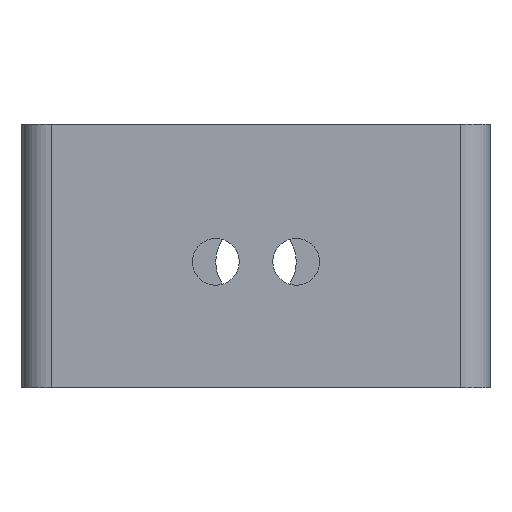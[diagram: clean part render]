
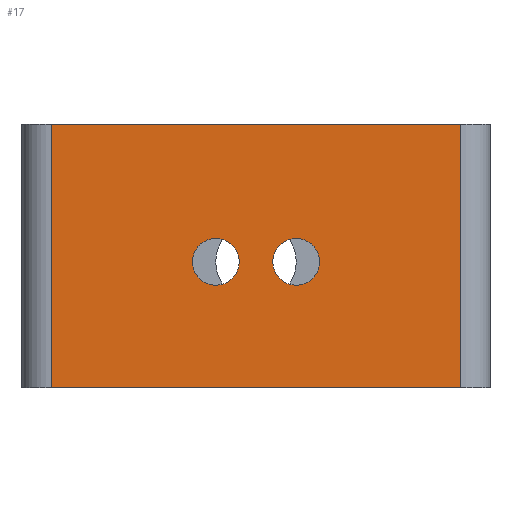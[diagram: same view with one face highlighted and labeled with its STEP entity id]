
A CAD part, left-side view. The second image highlights one B-rep face of the part: STEP entity #17.
In plain terms, the highlighted planar face has unit normal (-1, 0, 0).
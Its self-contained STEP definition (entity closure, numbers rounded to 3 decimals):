
#17 = ADVANCED_FACE('',(#18,#137,#172),#32,.F.);
#18 = FACE_BOUND('',#19,.F.);
#19 = EDGE_LOOP('',(#20,#55,#83,#111));
#20 = ORIENTED_EDGE('',*,*,#21,.F.);
#21 = EDGE_CURVE('',#22,#24,#26,.T.);
#22 = VERTEX_POINT('',#23);
#23 = CARTESIAN_POINT('',(0.,2.,18.));
#24 = VERTEX_POINT('',#25);
#25 = CARTESIAN_POINT('',(0.,30.,18.));
#26 = SURFACE_CURVE('',#27,(#31,#43),.PCURVE_S1.);
#27 = LINE('',#28,#29);
#28 = CARTESIAN_POINT('',(0.,0.,18.));
#29 = VECTOR('',#30,1.);
#30 = DIRECTION('',(0.,1.,0.));
#31 = PCURVE('',#32,#37);
#32 = PLANE('',#33);
#33 = AXIS2_PLACEMENT_3D('',#34,#35,#36);
#34 = CARTESIAN_POINT('',(0.,0.,0.));
#35 = DIRECTION('',(1.,0.,0.));
#36 = DIRECTION('',(0.,0.,1.));
#37 = DEFINITIONAL_REPRESENTATION('',(#38),#42);
#38 = LINE('',#39,#40);
#39 = CARTESIAN_POINT('',(18.,0.));
#40 = VECTOR('',#41,1.);
#41 = DIRECTION('',(0.,-1.));
#42 = ( GEOMETRIC_REPRESENTATION_CONTEXT(2) 
PARAMETRIC_REPRESENTATION_CONTEXT() REPRESENTATION_CONTEXT('2D SPACE',''
  ) );
#43 = PCURVE('',#44,#49);
#44 = PLANE('',#45);
#45 = AXIS2_PLACEMENT_3D('',#46,#47,#48);
#46 = CARTESIAN_POINT('',(0.,0.,18.));
#47 = DIRECTION('',(0.,0.,1.));
#48 = DIRECTION('',(1.,0.,0.));
#49 = DEFINITIONAL_REPRESENTATION('',(#50),#54);
#50 = LINE('',#51,#52);
#51 = CARTESIAN_POINT('',(0.,0.));
#52 = VECTOR('',#53,1.);
#53 = DIRECTION('',(0.,1.));
#54 = ( GEOMETRIC_REPRESENTATION_CONTEXT(2) 
PARAMETRIC_REPRESENTATION_CONTEXT() REPRESENTATION_CONTEXT('2D SPACE',''
  ) );
#55 = ORIENTED_EDGE('',*,*,#56,.F.);
#56 = EDGE_CURVE('',#57,#22,#59,.T.);
#57 = VERTEX_POINT('',#58);
#58 = CARTESIAN_POINT('',(0.,2.,0.));
#59 = SURFACE_CURVE('',#60,(#64,#71),.PCURVE_S1.);
#60 = LINE('',#61,#62);
#61 = CARTESIAN_POINT('',(0.,2.,0.));
#62 = VECTOR('',#63,1.);
#63 = DIRECTION('',(0.,0.,1.));
#64 = PCURVE('',#32,#65);
#65 = DEFINITIONAL_REPRESENTATION('',(#66),#70);
#66 = LINE('',#67,#68);
#67 = CARTESIAN_POINT('',(0.,-2.));
#68 = VECTOR('',#69,1.);
#69 = DIRECTION('',(1.,0.));
#70 = ( GEOMETRIC_REPRESENTATION_CONTEXT(2) 
PARAMETRIC_REPRESENTATION_CONTEXT() REPRESENTATION_CONTEXT('2D SPACE',''
  ) );
#71 = PCURVE('',#72,#77);
#72 = CYLINDRICAL_SURFACE('',#73,2.);
#73 = AXIS2_PLACEMENT_3D('',#74,#75,#76);
#74 = CARTESIAN_POINT('',(2.,2.,0.));
#75 = DIRECTION('',(0.,0.,1.));
#76 = DIRECTION('',(-1.,-0.,0.));
#77 = DEFINITIONAL_REPRESENTATION('',(#78),#82);
#78 = LINE('',#79,#80);
#79 = CARTESIAN_POINT('',(0.,0.));
#80 = VECTOR('',#81,1.);
#81 = DIRECTION('',(0.,1.));
#82 = ( GEOMETRIC_REPRESENTATION_CONTEXT(2) 
PARAMETRIC_REPRESENTATION_CONTEXT() REPRESENTATION_CONTEXT('2D SPACE',''
  ) );
#83 = ORIENTED_EDGE('',*,*,#84,.T.);
#84 = EDGE_CURVE('',#57,#85,#87,.T.);
#85 = VERTEX_POINT('',#86);
#86 = CARTESIAN_POINT('',(0.,30.,0.));
#87 = SURFACE_CURVE('',#88,(#92,#99),.PCURVE_S1.);
#88 = LINE('',#89,#90);
#89 = CARTESIAN_POINT('',(0.,0.,0.));
#90 = VECTOR('',#91,1.);
#91 = DIRECTION('',(0.,1.,0.));
#92 = PCURVE('',#32,#93);
#93 = DEFINITIONAL_REPRESENTATION('',(#94),#98);
#94 = LINE('',#95,#96);
#95 = CARTESIAN_POINT('',(0.,0.));
#96 = VECTOR('',#97,1.);
#97 = DIRECTION('',(0.,-1.));
#98 = ( GEOMETRIC_REPRESENTATION_CONTEXT(2) 
PARAMETRIC_REPRESENTATION_CONTEXT() REPRESENTATION_CONTEXT('2D SPACE',''
  ) );
#99 = PCURVE('',#100,#105);
#100 = PLANE('',#101);
#101 = AXIS2_PLACEMENT_3D('',#102,#103,#104);
#102 = CARTESIAN_POINT('',(0.,0.,0.));
#103 = DIRECTION('',(0.,0.,1.));
#104 = DIRECTION('',(1.,0.,0.));
#105 = DEFINITIONAL_REPRESENTATION('',(#106),#110);
#106 = LINE('',#107,#108);
#107 = CARTESIAN_POINT('',(0.,0.));
#108 = VECTOR('',#109,1.);
#109 = DIRECTION('',(0.,1.));
#110 = ( GEOMETRIC_REPRESENTATION_CONTEXT(2) 
PARAMETRIC_REPRESENTATION_CONTEXT() REPRESENTATION_CONTEXT('2D SPACE',''
  ) );
#111 = ORIENTED_EDGE('',*,*,#112,.T.);
#112 = EDGE_CURVE('',#85,#24,#113,.T.);
#113 = SURFACE_CURVE('',#114,(#118,#125),.PCURVE_S1.);
#114 = LINE('',#115,#116);
#115 = CARTESIAN_POINT('',(0.,30.,0.));
#116 = VECTOR('',#117,1.);
#117 = DIRECTION('',(0.,0.,1.));
#118 = PCURVE('',#32,#119);
#119 = DEFINITIONAL_REPRESENTATION('',(#120),#124);
#120 = LINE('',#121,#122);
#121 = CARTESIAN_POINT('',(0.,-30.));
#122 = VECTOR('',#123,1.);
#123 = DIRECTION('',(1.,0.));
#124 = ( GEOMETRIC_REPRESENTATION_CONTEXT(2) 
PARAMETRIC_REPRESENTATION_CONTEXT() REPRESENTATION_CONTEXT('2D SPACE',''
  ) );
#125 = PCURVE('',#126,#131);
#126 = CYLINDRICAL_SURFACE('',#127,2.);
#127 = AXIS2_PLACEMENT_3D('',#128,#129,#130);
#128 = CARTESIAN_POINT('',(2.,30.,0.));
#129 = DIRECTION('',(0.,0.,1.));
#130 = DIRECTION('',(-1.,-0.,0.));
#131 = DEFINITIONAL_REPRESENTATION('',(#132),#136);
#132 = LINE('',#133,#134);
#133 = CARTESIAN_POINT('',(-0.,0.));
#134 = VECTOR('',#135,1.);
#135 = DIRECTION('',(-0.,1.));
#136 = ( GEOMETRIC_REPRESENTATION_CONTEXT(2) 
PARAMETRIC_REPRESENTATION_CONTEXT() REPRESENTATION_CONTEXT('2D SPACE',''
  ) );
#137 = FACE_BOUND('',#138,.F.);
#138 = EDGE_LOOP('',(#139));
#139 = ORIENTED_EDGE('',*,*,#140,.T.);
#140 = EDGE_CURVE('',#141,#141,#143,.T.);
#141 = VERTEX_POINT('',#142);
#142 = CARTESIAN_POINT('',(0.,20.35,8.6));
#143 = SURFACE_CURVE('',#144,(#149,#160),.PCURVE_S1.);
#144 = CIRCLE('',#145,1.6);
#145 = AXIS2_PLACEMENT_3D('',#146,#147,#148);
#146 = CARTESIAN_POINT('',(0.,18.75,8.6));
#147 = DIRECTION('',(-1.,0.,0.));
#148 = DIRECTION('',(0.,1.,0.));
#149 = PCURVE('',#32,#150);
#150 = DEFINITIONAL_REPRESENTATION('',(#151),#159);
#151 = ( BOUNDED_CURVE() B_SPLINE_CURVE(2,(#152,#153,#154,#155,#156,#157
,#158),.UNSPECIFIED.,.T.,.F.) B_SPLINE_CURVE_WITH_KNOTS((1,2,2,2,2,1),(
    -2.094,0.,2.094,4.189,6.283,
8.378),.UNSPECIFIED.) CURVE() GEOMETRIC_REPRESENTATION_ITEM() 
RATIONAL_B_SPLINE_CURVE((1.,0.5,1.,0.5,1.,0.5,1.)) REPRESENTATION_ITEM(
  '') );
#152 = CARTESIAN_POINT('',(8.6,-20.35));
#153 = CARTESIAN_POINT('',(5.829,-20.35));
#154 = CARTESIAN_POINT('',(7.214,-17.95));
#155 = CARTESIAN_POINT('',(8.6,-15.55));
#156 = CARTESIAN_POINT('',(9.986,-17.95));
#157 = CARTESIAN_POINT('',(11.371,-20.35));
#158 = CARTESIAN_POINT('',(8.6,-20.35));
#159 = ( GEOMETRIC_REPRESENTATION_CONTEXT(2) 
PARAMETRIC_REPRESENTATION_CONTEXT() REPRESENTATION_CONTEXT('2D SPACE',''
  ) );
#160 = PCURVE('',#161,#166);
#161 = CYLINDRICAL_SURFACE('',#162,1.6);
#162 = AXIS2_PLACEMENT_3D('',#163,#164,#165);
#163 = CARTESIAN_POINT('',(-0.5,18.75,8.6));
#164 = DIRECTION('',(-1.,-0.,-0.));
#165 = DIRECTION('',(0.,1.,0.));
#166 = DEFINITIONAL_REPRESENTATION('',(#167),#171);
#167 = LINE('',#168,#169);
#168 = CARTESIAN_POINT('',(-6.283,-0.5));
#169 = VECTOR('',#170,1.);
#170 = DIRECTION('',(1.,-0.));
#171 = ( GEOMETRIC_REPRESENTATION_CONTEXT(2) 
PARAMETRIC_REPRESENTATION_CONTEXT() REPRESENTATION_CONTEXT('2D SPACE',''
  ) );
#172 = FACE_BOUND('',#173,.F.);
#173 = EDGE_LOOP('',(#174));
#174 = ORIENTED_EDGE('',*,*,#175,.T.);
#175 = EDGE_CURVE('',#176,#176,#178,.T.);
#176 = VERTEX_POINT('',#177);
#177 = CARTESIAN_POINT('',(0.,14.85,8.6));
#178 = SURFACE_CURVE('',#179,(#184,#195),.PCURVE_S1.);
#179 = CIRCLE('',#180,1.6);
#180 = AXIS2_PLACEMENT_3D('',#181,#182,#183);
#181 = CARTESIAN_POINT('',(0.,13.25,8.6));
#182 = DIRECTION('',(-1.,0.,0.));
#183 = DIRECTION('',(0.,1.,0.));
#184 = PCURVE('',#32,#185);
#185 = DEFINITIONAL_REPRESENTATION('',(#186),#194);
#186 = ( BOUNDED_CURVE() B_SPLINE_CURVE(2,(#187,#188,#189,#190,#191,#192
,#193),.UNSPECIFIED.,.T.,.F.) B_SPLINE_CURVE_WITH_KNOTS((1,2,2,2,2,1),(
    -2.094,0.,2.094,4.189,6.283,
8.378),.UNSPECIFIED.) CURVE() GEOMETRIC_REPRESENTATION_ITEM() 
RATIONAL_B_SPLINE_CURVE((1.,0.5,1.,0.5,1.,0.5,1.)) REPRESENTATION_ITEM(
  '') );
#187 = CARTESIAN_POINT('',(8.6,-14.85));
#188 = CARTESIAN_POINT('',(5.829,-14.85));
#189 = CARTESIAN_POINT('',(7.214,-12.45));
#190 = CARTESIAN_POINT('',(8.6,-10.05));
#191 = CARTESIAN_POINT('',(9.986,-12.45));
#192 = CARTESIAN_POINT('',(11.371,-14.85));
#193 = CARTESIAN_POINT('',(8.6,-14.85));
#194 = ( GEOMETRIC_REPRESENTATION_CONTEXT(2) 
PARAMETRIC_REPRESENTATION_CONTEXT() REPRESENTATION_CONTEXT('2D SPACE',''
  ) );
#195 = PCURVE('',#196,#201);
#196 = CYLINDRICAL_SURFACE('',#197,1.6);
#197 = AXIS2_PLACEMENT_3D('',#198,#199,#200);
#198 = CARTESIAN_POINT('',(-0.5,13.25,8.6));
#199 = DIRECTION('',(-1.,-0.,-0.));
#200 = DIRECTION('',(0.,1.,0.));
#201 = DEFINITIONAL_REPRESENTATION('',(#202),#206);
#202 = LINE('',#203,#204);
#203 = CARTESIAN_POINT('',(-6.283,-0.5));
#204 = VECTOR('',#205,1.);
#205 = DIRECTION('',(1.,-0.));
#206 = ( GEOMETRIC_REPRESENTATION_CONTEXT(2) 
PARAMETRIC_REPRESENTATION_CONTEXT() REPRESENTATION_CONTEXT('2D SPACE',''
  ) );
